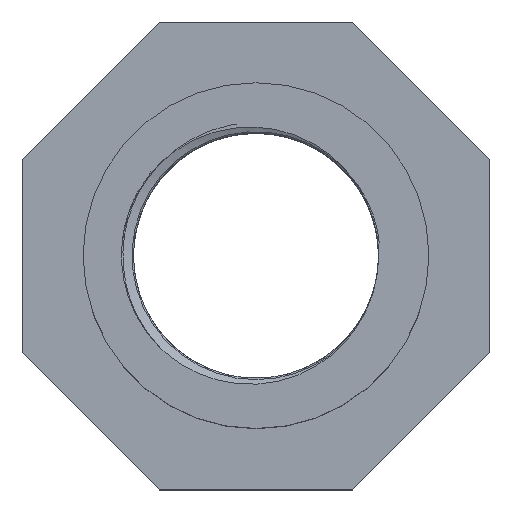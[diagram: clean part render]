
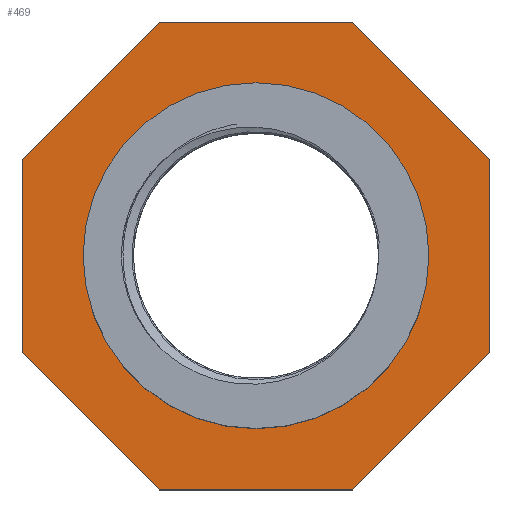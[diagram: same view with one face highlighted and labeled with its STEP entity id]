
A CAD part, top view. The second image highlights one B-rep face of the part: STEP entity #469.
In plain terms, the highlighted planar face has unit normal (0, 0, 1).
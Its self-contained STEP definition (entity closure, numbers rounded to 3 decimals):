
#16=FACE_BOUND('',#107,.T.);
#38=PLANE('',#497);
#49=CIRCLE('',#498,17.);
#76=FACE_OUTER_BOUND('',#106,.T.);
#106=EDGE_LOOP('',(#411,#412,#413,#414,#415,#416,#417,#418));
#107=EDGE_LOOP('',(#419));
#126=LINE('',#8163,#156);
#130=LINE('',#8171,#160);
#133=LINE('',#8177,#163);
#136=LINE('',#8183,#166);
#139=LINE('',#8189,#169);
#142=LINE('',#8195,#172);
#145=LINE('',#8201,#175);
#148=LINE('',#8206,#178);
#156=VECTOR('',#539,19.054);
#160=VECTOR('',#545,19.054);
#163=VECTOR('',#550,19.054);
#166=VECTOR('',#555,19.054);
#169=VECTOR('',#560,19.054);
#172=VECTOR('',#565,19.054);
#175=VECTOR('',#570,19.054);
#178=VECTOR('',#575,19.054);
#224=VERTEX_POINT('',#8161);
#225=VERTEX_POINT('',#8162);
#228=VERTEX_POINT('',#8170);
#230=VERTEX_POINT('',#8176);
#232=VERTEX_POINT('',#8182);
#234=VERTEX_POINT('',#8188);
#236=VERTEX_POINT('',#8194);
#238=VERTEX_POINT('',#8200);
#240=VERTEX_POINT('',#8210);
#280=EDGE_CURVE('',#224,#225,#126,.T.);
#284=EDGE_CURVE('',#228,#224,#130,.T.);
#287=EDGE_CURVE('',#230,#228,#133,.T.);
#290=EDGE_CURVE('',#232,#230,#136,.T.);
#293=EDGE_CURVE('',#234,#232,#139,.T.);
#296=EDGE_CURVE('',#236,#234,#142,.T.);
#299=EDGE_CURVE('',#238,#236,#145,.T.);
#302=EDGE_CURVE('',#225,#238,#148,.T.);
#304=EDGE_CURVE('',#240,#240,#49,.T.);
#411=ORIENTED_EDGE('',*,*,#302,.F.);
#412=ORIENTED_EDGE('',*,*,#280,.F.);
#413=ORIENTED_EDGE('',*,*,#284,.F.);
#414=ORIENTED_EDGE('',*,*,#287,.F.);
#415=ORIENTED_EDGE('',*,*,#290,.F.);
#416=ORIENTED_EDGE('',*,*,#293,.F.);
#417=ORIENTED_EDGE('',*,*,#296,.F.);
#418=ORIENTED_EDGE('',*,*,#299,.F.);
#419=ORIENTED_EDGE('',*,*,#304,.F.);
#469=ADVANCED_FACE('',(#76,#16),#38,.T.);
#497=AXIS2_PLACEMENT_3D('',#8209,#579,#580);
#498=AXIS2_PLACEMENT_3D('',#8211,#581,#582);
#539=DIRECTION('',(1.,0.,0.));
#545=DIRECTION('',(0.707,0.707,0.));
#550=DIRECTION('',(0.,1.,0.));
#555=DIRECTION('',(-0.707,0.707,0.));
#560=DIRECTION('',(-1.,0.,0.));
#565=DIRECTION('',(-0.707,-0.707,0.));
#570=DIRECTION('',(0.,-1.,0.));
#575=DIRECTION('',(0.707,-0.707,0.));
#579=DIRECTION('center_axis',(0.,0.,1.));
#580=DIRECTION('ref_axis',(1.,0.,0.));
#581=DIRECTION('center_axis',(0.,0.,1.));
#582=DIRECTION('ref_axis',(1.,0.,0.));
#8161=CARTESIAN_POINT('',(-9.527,23.,34.));
#8162=CARTESIAN_POINT('',(9.527,23.,34.));
#8163=CARTESIAN_POINT('',(-9.527,23.,34.));
#8170=CARTESIAN_POINT('',(-23.,9.527,34.));
#8171=CARTESIAN_POINT('',(-23.,9.527,34.));
#8176=CARTESIAN_POINT('',(-23.,-9.527,34.));
#8177=CARTESIAN_POINT('',(-23.,-9.527,34.));
#8182=CARTESIAN_POINT('',(-9.527,-23.,34.));
#8183=CARTESIAN_POINT('',(-9.527,-23.,34.));
#8188=CARTESIAN_POINT('',(9.527,-23.,34.));
#8189=CARTESIAN_POINT('',(9.527,-23.,34.));
#8194=CARTESIAN_POINT('',(23.,-9.527,34.));
#8195=CARTESIAN_POINT('',(23.,-9.527,34.));
#8200=CARTESIAN_POINT('',(23.,9.527,34.));
#8201=CARTESIAN_POINT('',(23.,9.527,34.));
#8206=CARTESIAN_POINT('',(9.527,23.,34.));
#8209=CARTESIAN_POINT('Origin',(17.,0.,34.));
#8210=CARTESIAN_POINT('',(17.,0.,34.));
#8211=CARTESIAN_POINT('Origin',(0.,0.,34.));
